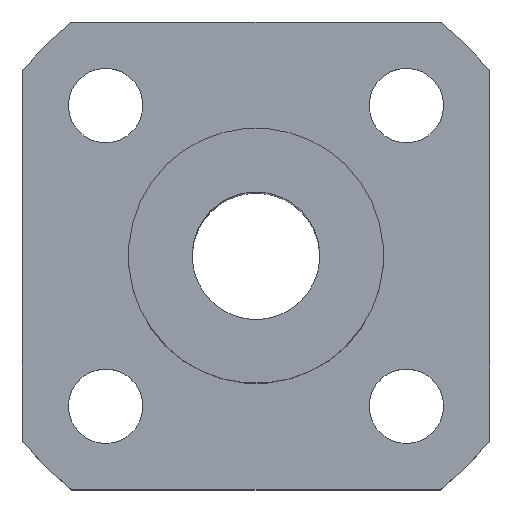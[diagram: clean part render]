
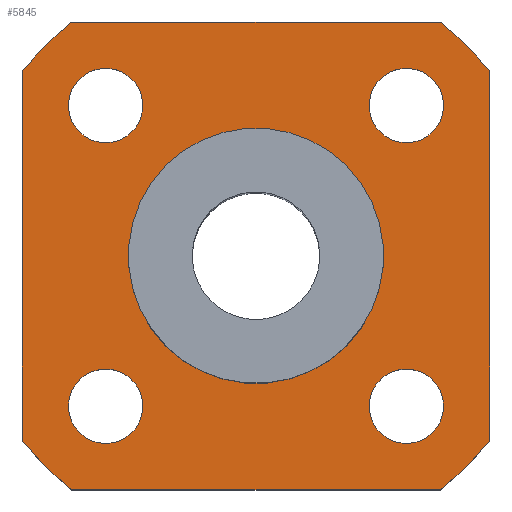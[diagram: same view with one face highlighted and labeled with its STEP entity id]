
A CAD part, top view. The second image highlights one B-rep face of the part: STEP entity #5845.
In plain terms, the highlighted planar face has unit normal (0, 0, 1).
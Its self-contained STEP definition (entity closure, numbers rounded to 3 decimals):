
#114=CIRCLE('',#6199,14.);
#115=CIRCLE('',#6201,14.);
#116=CIRCLE('',#6203,14.);
#126=CIRCLE('',#6219,6.);
#130=CIRCLE('',#6227,14.);
#131=CIRCLE('',#6229,1.75);
#132=CIRCLE('',#6230,1.75);
#133=CIRCLE('',#6231,1.75);
#134=CIRCLE('',#6232,1.75);
#563=ORIENTED_EDGE('',*,*,#2244,.F.);
#564=ORIENTED_EDGE('',*,*,#2224,.T.);
#565=ORIENTED_EDGE('',*,*,#2245,.F.);
#566=ORIENTED_EDGE('',*,*,#2227,.T.);
#567=ORIENTED_EDGE('',*,*,#2246,.F.);
#568=ORIENTED_EDGE('',*,*,#2243,.T.);
#569=ORIENTED_EDGE('',*,*,#2247,.F.);
#570=ORIENTED_EDGE('',*,*,#2220,.T.);
#571=ORIENTED_EDGE('',*,*,#2248,.F.);
#572=ORIENTED_EDGE('',*,*,#2249,.F.);
#573=ORIENTED_EDGE('',*,*,#2250,.F.);
#574=ORIENTED_EDGE('',*,*,#2251,.F.);
#575=ORIENTED_EDGE('',*,*,#2237,.T.);
#2220=EDGE_CURVE('',#3065,#3064,#114,.T.);
#2224=EDGE_CURVE('',#3066,#3067,#115,.T.);
#2227=EDGE_CURVE('',#3068,#3069,#116,.T.);
#2237=EDGE_CURVE('',#3079,#3079,#126,.F.);
#2243=EDGE_CURVE('',#3083,#3084,#130,.T.);
#2244=EDGE_CURVE('',#3066,#3064,#3581,.T.);
#2245=EDGE_CURVE('',#3068,#3067,#3582,.T.);
#2246=EDGE_CURVE('',#3083,#3069,#3583,.T.);
#2247=EDGE_CURVE('',#3065,#3084,#3584,.T.);
#2248=EDGE_CURVE('',#3085,#3085,#131,.T.);
#2249=EDGE_CURVE('',#3086,#3086,#132,.T.);
#2250=EDGE_CURVE('',#3087,#3087,#133,.T.);
#2251=EDGE_CURVE('',#3088,#3088,#134,.T.);
#3064=VERTEX_POINT('',#9178);
#3065=VERTEX_POINT('',#9180);
#3066=VERTEX_POINT('',#9184);
#3067=VERTEX_POINT('',#9186);
#3068=VERTEX_POINT('',#9190);
#3069=VERTEX_POINT('',#9192);
#3079=VERTEX_POINT('',#9219);
#3083=VERTEX_POINT('',#9231);
#3084=VERTEX_POINT('',#9233);
#3085=VERTEX_POINT('',#9241);
#3086=VERTEX_POINT('',#9243);
#3087=VERTEX_POINT('',#9245);
#3088=VERTEX_POINT('',#9247);
#3581=LINE('',#9236,#4260);
#3582=LINE('',#9237,#4261);
#3583=LINE('',#9238,#4262);
#3584=LINE('',#9239,#4263);
#4260=VECTOR('',#6789,1000.);
#4261=VECTOR('',#6790,1000.);
#4262=VECTOR('',#6791,1000.);
#4263=VECTOR('',#6792,1000.);
#4800=EDGE_LOOP('',(#563,#564,#565,#566,#567,#568,#569,#570));
#4801=EDGE_LOOP('',(#571));
#4802=EDGE_LOOP('',(#572));
#4803=EDGE_LOOP('',(#573));
#4804=EDGE_LOOP('',(#574));
#4805=EDGE_LOOP('',(#575));
#5219=FACE_BOUND('',#4800,.T.);
#5220=FACE_BOUND('',#4801,.T.);
#5221=FACE_BOUND('',#4802,.T.);
#5222=FACE_BOUND('',#4803,.T.);
#5223=FACE_BOUND('',#4804,.T.);
#5224=FACE_BOUND('',#4805,.T.);
#5579=PLANE('',#6228);
#5845=ADVANCED_FACE('',(#5219,#5220,#5221,#5222,#5223,#5224),#5579,.T.);
#6199=AXIS2_PLACEMENT_3D('',#9179,#6722,#6723);
#6201=AXIS2_PLACEMENT_3D('',#9187,#6729,#6730);
#6203=AXIS2_PLACEMENT_3D('',#9193,#6735,#6736);
#6219=AXIS2_PLACEMENT_3D('',#9218,#6767,#6768);
#6227=AXIS2_PLACEMENT_3D('',#9234,#6785,#6786);
#6228=AXIS2_PLACEMENT_3D('',#9235,#6787,#6788);
#6229=AXIS2_PLACEMENT_3D('',#9240,#6793,#6794);
#6230=AXIS2_PLACEMENT_3D('',#9242,#6795,#6796);
#6231=AXIS2_PLACEMENT_3D('',#9244,#6797,#6798);
#6232=AXIS2_PLACEMENT_3D('',#9246,#6799,#6800);
#6722=DIRECTION('',(0.,0.,1.));
#6723=DIRECTION('',(0.707,-0.707,0.));
#6729=DIRECTION('',(0.,0.,1.));
#6730=DIRECTION('',(0.707,-0.707,0.));
#6735=DIRECTION('',(0.,0.,1.));
#6736=DIRECTION('',(0.707,-0.707,0.));
#6767=DIRECTION('',(0.,0.,1.));
#6768=DIRECTION('',(0.707,-0.707,0.));
#6785=DIRECTION('',(0.,0.,1.));
#6786=DIRECTION('',(0.707,-0.707,0.));
#6787=DIRECTION('',(0.,0.,1.));
#6788=DIRECTION('',(0.707,-0.707,0.));
#6789=DIRECTION('',(0.,-1.,0.));
#6790=DIRECTION('',(1.,0.,0.));
#6791=DIRECTION('',(0.,1.,0.));
#6792=DIRECTION('',(-1.,0.,0.));
#6793=DIRECTION('',(0.,0.,1.));
#6794=DIRECTION('',(0.707,-0.707,0.));
#6795=DIRECTION('',(0.,0.,1.));
#6796=DIRECTION('',(0.707,-0.707,0.));
#6797=DIRECTION('',(0.,0.,1.));
#6798=DIRECTION('',(0.707,-0.707,0.));
#6799=DIRECTION('',(0.,0.,1.));
#6800=DIRECTION('',(0.707,-0.707,0.));
#9178=CARTESIAN_POINT('',(11.,-8.66,0.));
#9179=CARTESIAN_POINT('',(0.,0.,0.));
#9180=CARTESIAN_POINT('',(8.66,-11.,0.));
#9184=CARTESIAN_POINT('',(11.,8.66,0.));
#9186=CARTESIAN_POINT('',(8.66,11.,0.));
#9187=CARTESIAN_POINT('',(0.,0.,0.));
#9190=CARTESIAN_POINT('',(-8.66,11.,0.));
#9192=CARTESIAN_POINT('',(-11.,8.66,0.));
#9193=CARTESIAN_POINT('',(0.,0.,0.));
#9218=CARTESIAN_POINT('',(0.,0.,0.));
#9219=CARTESIAN_POINT('',(4.243,-4.243,0.));
#9231=CARTESIAN_POINT('',(-11.,-8.66,0.));
#9233=CARTESIAN_POINT('',(-8.66,-11.,0.));
#9234=CARTESIAN_POINT('',(0.,0.,0.));
#9235=CARTESIAN_POINT('',(0.,0.,0.));
#9236=CARTESIAN_POINT('',(11.,8.66,0.));
#9237=CARTESIAN_POINT('',(8.66,11.,0.));
#9238=CARTESIAN_POINT('',(-11.,8.66,0.));
#9239=CARTESIAN_POINT('',(8.66,-11.,0.));
#9240=CARTESIAN_POINT('',(7.071,7.071,0.));
#9241=CARTESIAN_POINT('',(8.309,5.834,0.));
#9242=CARTESIAN_POINT('',(-7.071,7.071,0.));
#9243=CARTESIAN_POINT('',(-5.834,5.834,0.));
#9244=CARTESIAN_POINT('',(-7.071,-7.071,0.));
#9245=CARTESIAN_POINT('',(-5.834,-8.309,0.));
#9246=CARTESIAN_POINT('',(7.071,-7.071,0.));
#9247=CARTESIAN_POINT('',(8.309,-8.309,0.));
